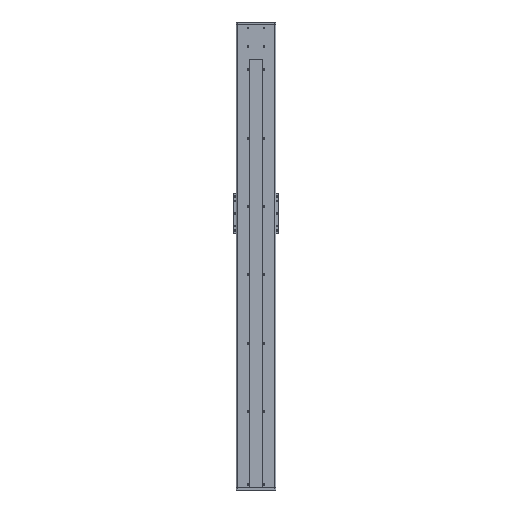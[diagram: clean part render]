
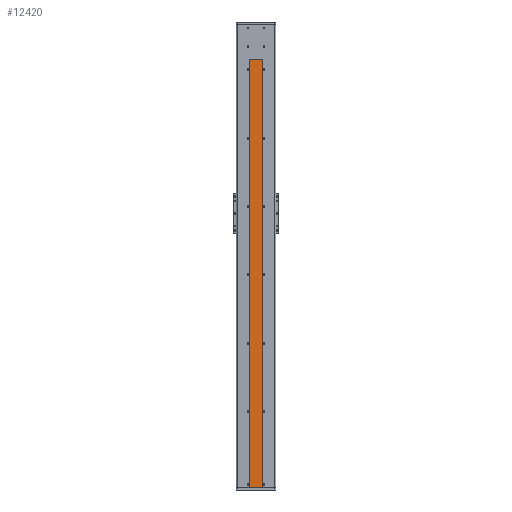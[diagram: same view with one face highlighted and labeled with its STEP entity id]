
A CAD part, front view. The second image highlights one B-rep face of the part: STEP entity #12420.
In plain terms, the highlighted planar face has unit normal (0, -1, 0).
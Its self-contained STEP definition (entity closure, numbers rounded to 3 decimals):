
#971 = DIRECTION ( 'NONE',  ( 0., 0., 1. ) ) ;
#1035 = LINE ( 'NONE', #44901, #27358 ) ;
#3283 = EDGE_CURVE ( 'NONE', #23634, #24669, #16730, .T. ) ;
#4311 = CARTESIAN_POINT ( 'NONE',  ( 1.27, -85.314, 155. ) ) ;
#6959 = VERTEX_POINT ( 'NONE', #4311 ) ;
#7277 = ORIENTED_EDGE ( 'NONE', *, *, #16179, .F. ) ;
#7646 = ORIENTED_EDGE ( 'NONE', *, *, #32834, .T. ) ;
#8744 = ORIENTED_EDGE ( 'NONE', *, *, #13937, .F. ) ;
#10701 = CARTESIAN_POINT ( 'NONE',  ( 58.27, -85.314, 155. ) ) ;
#12420 = ADVANCED_FACE ( 'NONE', ( #31382 ), #15001, .F. ) ;
#13937 = EDGE_CURVE ( 'NONE', #6959, #24669, #1035, .T. ) ;
#15001 = PLANE ( 'NONE',  #31851 ) ;
#16179 = EDGE_CURVE ( 'NONE', #30012, #6959, #22202, .T. ) ;
#16730 = LINE ( 'NONE', #39322, #34630 ) ;
#22202 = LINE ( 'NONE', #35470, #29451 ) ;
#22412 = DIRECTION ( 'NONE',  ( 0., 1., 0. ) ) ;
#23634 = VERTEX_POINT ( 'NONE', #28597 ) ;
#24669 = VERTEX_POINT ( 'NONE', #37102 ) ;
#27358 = VECTOR ( 'NONE', #34207, 1000. ) ;
#28597 = CARTESIAN_POINT ( 'NONE',  ( 58.27, -85.314, 2035. ) ) ;
#29008 = VECTOR ( 'NONE', #37638, 1000. ) ;
#29451 = VECTOR ( 'NONE', #39090, 1000. ) ;
#30012 = VERTEX_POINT ( 'NONE', #10701 ) ;
#30454 = CARTESIAN_POINT ( 'NONE',  ( 58.27, -85.314, 155. ) ) ;
#31382 = FACE_OUTER_BOUND ( 'NONE', #34580, .T. ) ;
#31851 = AXIS2_PLACEMENT_3D ( 'NONE', #36628, #22412, #971 ) ;
#32834 = EDGE_CURVE ( 'NONE', #30012, #23634, #40770, .T. ) ;
#34207 = DIRECTION ( 'NONE',  ( 0., 0., 1. ) ) ;
#34580 = EDGE_LOOP ( 'NONE', ( #39878, #8744, #7277, #7646 ) ) ;
#34630 = VECTOR ( 'NONE', #35720, 1000. ) ;
#35470 = CARTESIAN_POINT ( 'NONE',  ( 1.27, -85.314, 155. ) ) ;
#35720 = DIRECTION ( 'NONE',  ( -1., 0., 0. ) ) ;
#36628 = CARTESIAN_POINT ( 'NONE',  ( 1.27, -85.314, 155. ) ) ;
#37102 = CARTESIAN_POINT ( 'NONE',  ( 1.27, -85.314, 2035. ) ) ;
#37638 = DIRECTION ( 'NONE',  ( 0., 0., 1. ) ) ;
#39090 = DIRECTION ( 'NONE',  ( -1., 0., 0. ) ) ;
#39322 = CARTESIAN_POINT ( 'NONE',  ( 1.27, -85.314, 2035. ) ) ;
#39878 = ORIENTED_EDGE ( 'NONE', *, *, #3283, .T. ) ;
#40770 = LINE ( 'NONE', #30454, #29008 ) ;
#44901 = CARTESIAN_POINT ( 'NONE',  ( 1.27, -85.314, 155. ) ) ;
